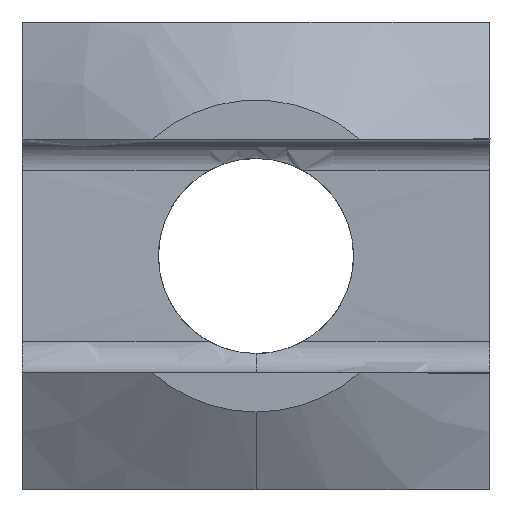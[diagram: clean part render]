
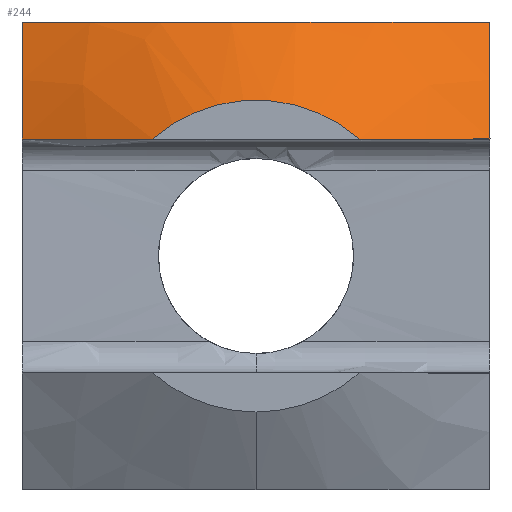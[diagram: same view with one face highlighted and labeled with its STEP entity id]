
A CAD part, left-side view. The second image highlights one B-rep face of the part: STEP entity #244.
In plain terms, the highlighted conical face has half-angle 60 degrees and reference radius 8.512 mm.
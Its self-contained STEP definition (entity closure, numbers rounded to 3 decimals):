
#1 = CARTESIAN_POINT ( 'NONE',  ( -4.811, -6., 5.02 ) ) ;
#32 = CARTESIAN_POINT ( 'NONE',  ( -4.794, -5.033, 6. ) ) ;
#41 = CARTESIAN_POINT ( 'NONE',  ( -5.656, 2.069, 6. ) ) ;
#46 = DIRECTION ( 'NONE',  ( 1., 0., 0. ) ) ;
#70 = CARTESIAN_POINT ( 'NONE',  ( -4.41, 6., 6. ) ) ;
#77 = CARTESIAN_POINT ( 'NONE',  ( -7., -2.646, 3. ) ) ;
#115 = CONICAL_SURFACE ( 'NONE', #343, 8.512, 1.047 ) ;
#124 = CARTESIAN_POINT ( 'NONE',  ( -5.291, -3.554, 6. ) ) ;
#133 = CARTESIAN_POINT ( 'NONE',  ( -4.41, -6., 6. ) ) ;
#153 = AXIS2_PLACEMENT_3D ( 'NONE', #767, #190, #1254 ) ;
#155 = EDGE_CURVE ( 'NONE', #764, #373, #552, .T. ) ;
#169 = CARTESIAN_POINT ( 'NONE',  ( -6.526, 3.786, 3. ) ) ;
#190 = DIRECTION ( 'NONE',  ( 1., 0., 0. ) ) ;
#228 = CARTESIAN_POINT ( 'NONE',  ( -5.136, -4.052, 6. ) ) ;
#244 = ADVANCED_FACE ( 'NONE', ( #1065 ), #115, .T. ) ;
#267 = CARTESIAN_POINT ( 'NONE',  ( -7., 2.646, 3. ) ) ;
#283 = CARTESIAN_POINT ( 'NONE',  ( -5.436, 6., 3. ) ) ;
#341 = CARTESIAN_POINT ( 'NONE',  ( -5.156, 4.068, 6. ) ) ;
#343 = AXIS2_PLACEMENT_3D ( 'NONE', #1126, #46, #763 ) ;
#373 = VERTEX_POINT ( 'NONE', #70 ) ;
#379 = CARTESIAN_POINT ( 'NONE',  ( -5.997, 4.9, 3. ) ) ;
#445 = VERTEX_POINT ( 'NONE', #1172 ) ;
#459 = VERTEX_POINT ( 'NONE', #1061 ) ;
#494 = ORIENTED_EDGE ( 'NONE', *, *, #829, .F. ) ;
#511 = ORIENTED_EDGE ( 'NONE', *, *, #1155, .T. ) ;
#524 = B_SPLINE_CURVE_WITH_KNOTS ( 'NONE', 3,
 ( #77, #678, #1052, #1049, #781, #569 ),
 .UNSPECIFIED., .F., .F.,
 ( 4, 2, 4 ),
 ( 0., 0.002, 0.004 ),
 .UNSPECIFIED. ) ;
#552 = B_SPLINE_CURVE_WITH_KNOTS ( 'NONE', 3,
 ( #1211, #726, #1213, #633 ),
 .UNSPECIFIED., .F., .F.,
 ( 4, 4 ),
 ( 0., 0.003 ),
 .UNSPECIFIED. ) ;
#561 = VERTEX_POINT ( 'NONE', #1101 ) ;
#569 = CARTESIAN_POINT ( 'NONE',  ( -5.436, -6., 3. ) ) ;
#593 = CARTESIAN_POINT ( 'NONE',  ( -4.41, -6., 6. ) ) ;
#614 = EDGE_CURVE ( 'NONE', #373, #1026, #738, .T. ) ;
#626 = CARTESIAN_POINT ( 'NONE',  ( -5.845, 0.516, 6. ) ) ;
#633 = CARTESIAN_POINT ( 'NONE',  ( -4.41, 6., 6. ) ) ;
#635 = CARTESIAN_POINT ( 'NONE',  ( -5.805, 1.041, 6. ) ) ;
#643 = ORIENTED_EDGE ( 'NONE', *, *, #614, .F. ) ;
#678 = CARTESIAN_POINT ( 'NONE',  ( -6.779, -3.223, 3. ) ) ;
#684 = CARTESIAN_POINT ( 'NONE',  ( -5.436, -6., 3. ) ) ;
#722 = ORIENTED_EDGE ( 'NONE', *, *, #1149, .T. ) ;
#726 = CARTESIAN_POINT ( 'NONE',  ( -5.171, 6., 4.026 ) ) ;
#728 = CARTESIAN_POINT ( 'NONE',  ( -4.607, -5.518, 6. ) ) ;
#732 = CARTESIAN_POINT ( 'NONE',  ( -5.549, 2.574, 6. ) ) ;
#738 = B_SPLINE_CURVE_WITH_KNOTS ( 'NONE', 3,
 ( #982, #1192, #341, #732, #41, #635, #626, #840, #1212, #124, #228, #32, #728, #133 ),
 .UNSPECIFIED., .F., .F.,
 ( 4, 2, 2, 2, 2, 2, 4 ),
 ( 0., 0.003, 0.005, 0.006, 0.009, 0.011, 0.012 ),
 .UNSPECIFIED. ) ;
#755 = CARTESIAN_POINT ( 'NONE',  ( -4.41, -6., 6. ) ) ;
#763 = DIRECTION ( 'NONE',  ( 0., 0., -1. ) ) ;
#764 = VERTEX_POINT ( 'NONE', #283 ) ;
#767 = CARTESIAN_POINT ( 'NONE',  ( -7., 0., 0. ) ) ;
#781 = CARTESIAN_POINT ( 'NONE',  ( -5.72, -5.452, 3. ) ) ;
#829 = EDGE_CURVE ( 'NONE', #1026, #459, #940, .T. ) ;
#840 = CARTESIAN_POINT ( 'NONE',  ( -5.845, -1.033, 6. ) ) ;
#841 = B_SPLINE_CURVE_WITH_KNOTS ( 'NONE', 3,
 ( #965, #1161, #379, #169, #1060, #267 ),
 .UNSPECIFIED., .F., .F.,
 ( 4, 2, 4 ),
 ( 0., 0.002, 0.004 ),
 .UNSPECIFIED. ) ;
#940 = B_SPLINE_CURVE_WITH_KNOTS ( 'NONE', 3,
 ( #593, #1, #1074, #684 ),
 .UNSPECIFIED., .F., .F.,
 ( 4, 4 ),
 ( 0., 0.003 ),
 .UNSPECIFIED. ) ;
#948 = CIRCLE ( 'NONE', #153, 4. ) ;
#965 = CARTESIAN_POINT ( 'NONE',  ( -5.436, 6., 3. ) ) ;
#982 = CARTESIAN_POINT ( 'NONE',  ( -4.41, 6., 6. ) ) ;
#992 = ORIENTED_EDGE ( 'NONE', *, *, #1121, .T. ) ;
#1004 = ORIENTED_EDGE ( 'NONE', *, *, #155, .F. ) ;
#1026 = VERTEX_POINT ( 'NONE', #755 ) ;
#1049 = CARTESIAN_POINT ( 'NONE',  ( -5.997, -4.9, 3. ) ) ;
#1052 = CARTESIAN_POINT ( 'NONE',  ( -6.526, -3.786, 3. ) ) ;
#1060 = CARTESIAN_POINT ( 'NONE',  ( -6.779, 3.223, 3. ) ) ;
#1061 = CARTESIAN_POINT ( 'NONE',  ( -5.436, -6., 3. ) ) ;
#1065 = FACE_OUTER_BOUND ( 'NONE', #1124, .T. ) ;
#1074 = CARTESIAN_POINT ( 'NONE',  ( -5.171, -6., 4.026 ) ) ;
#1101 = CARTESIAN_POINT ( 'NONE',  ( -7., -2.646, 3. ) ) ;
#1121 = EDGE_CURVE ( 'NONE', #561, #459, #524, .T. ) ;
#1124 = EDGE_LOOP ( 'NONE', ( #511, #722, #992, #494, #643, #1004 ) ) ;
#1126 = CARTESIAN_POINT ( 'NONE',  ( -4.395, 0., 0. ) ) ;
#1149 = EDGE_CURVE ( 'NONE', #445, #561, #948, .T. ) ;
#1155 = EDGE_CURVE ( 'NONE', #764, #445, #841, .T. ) ;
#1161 = CARTESIAN_POINT ( 'NONE',  ( -5.72, 5.452, 3. ) ) ;
#1172 = CARTESIAN_POINT ( 'NONE',  ( -7., 2.646, 3. ) ) ;
#1192 = CARTESIAN_POINT ( 'NONE',  ( -4.803, 5.039, 6. ) ) ;
#1211 = CARTESIAN_POINT ( 'NONE',  ( -5.436, 6., 3. ) ) ;
#1212 = CARTESIAN_POINT ( 'NONE',  ( -5.686, -2.048, 6. ) ) ;
#1213 = CARTESIAN_POINT ( 'NONE',  ( -4.811, 6., 5.02 ) ) ;
#1254 = DIRECTION ( 'NONE',  ( 0., 0., -1. ) ) ;
